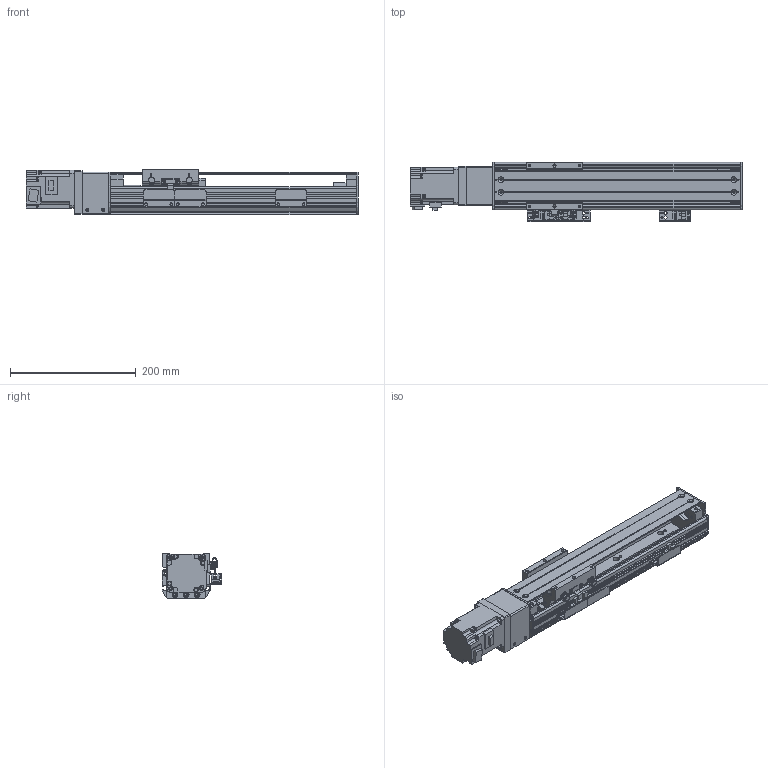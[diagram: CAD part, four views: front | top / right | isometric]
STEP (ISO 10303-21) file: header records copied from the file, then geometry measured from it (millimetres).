
FILE_DESCRIPTION(/* description */ (''),/* implementation_level */ '2;1');
FILE_NAME(/* name */ '\\192.168.0.160\disk1\HAN SHIN Master\B-설계부문\C-표준\B-2024년\BC02-표준도면\+로봇 개선표준도면\표준 승인도 작업 폴더\3D\HG75\HG75직렬\HG75-S20-N1B-0200-R10.stp',/* time_stamp */ '2024-02-01T15:33:00+09:00',/* author */ ('User'),/* organization */ (''),/* preprocessor_version */ 'ST-DEVELOPER v18.1',/* originating_system */ 'Autodesk Inventor 2022',/* authorisation */ '');
FILE_SCHEMA (('AUTOMOTIVE_DESIGN { 1 0 10303 214 3 1 1 }'));
Length unit declared in the file: millimetre
Products named in the file (21): HG75-S20-N1B-0500-R10 - 간소화; BASE; HR75 FRONT BLOCK; HR75 REAR COVER-TENTION; HR75 TENSION REAR BLOCK; HG3UPCOV001; H 15F_BLOCK; COUPLING COVER; HR75 REAR COVER; HR65,75 SENSOR DOG; HG90STOPPER - 20L; HG90STOPPER - 27L; hg-kr23_; HG75 S MOTOR PLATE-B; HG75 S MOTOR PLATE-M; hsr_ftht_A-M6F_grease_nipple_joint; NIPPLE CAP(신규); HR75 W TABLE; LMKE1520 NUT; SENSOR BRK(EE-SX674A); EE_SX674A
Assembly tree (26 placements, depth 2):
  HG75-S20-N1B-0500-R10 - 간소화
    BASE
    HR75 FRONT BLOCK
    HR75 REAR COVER-TENTION
    SENSOR BRK(EE-SX674A)  x3
    EE_SX674A  x3
    HR75 TENSION REAR BLOCK
    HG3UPCOV001
    H 15F_BLOCK
    COUPLING COVER
    HR75 REAR COVER
    HR65,75 SENSOR DOG
    HG90STOPPER - 20L
    HG90STOPPER - 27L
    hg-kr23_
    HG75 S MOTOR PLATE-B
    HG75 S MOTOR PLATE-M
    hsr_ftht_A-M6F_grease_nipple_joint  x2
    NIPPLE CAP(신규)  x2
    HR75 W TABLE
    LMKE1520 NUT
Bounding box: 527.6 x 94 x 73 mm (x, y, z)
Volume: 1062718.5 mm3; surface area: 405904 mm2
Topology: 26 solids, 26 shells, 1458 faces, 3903 edges, 2562 vertices
Faces by surface type: plane 737, cylinder 560, cone 125, sphere 16, torus 12, bspline 8
Full cylindrical faces by diameter (mm): 2 x4, 2.013 x2, 2.459 x12, 3 x4, 3.242 x26, 3.5 x6, 4.134 x45, 4.5 x18, 4.917 x5, 5 x38, 5.5 x29, 5.6 x10, 5.8 x4, 5.9 x8, 6 x6, 6.5 x4, 9.5 x25, 14 x1, 15 x3, 17 x1, 25 x2, 28 x1, 32 x2, 33.7 x1, 34 x1, 40 x1, 50 x2
Entity records: 40089 total; most frequent: CARTESIAN_POINT 7682, DIRECTION 6722, ORIENTED_EDGE 6366, EDGE_CURVE 3183, AXIS2_PLACEMENT_3D 2405, VERTEX_POINT 2123, LINE 1912, VECTOR 1912
